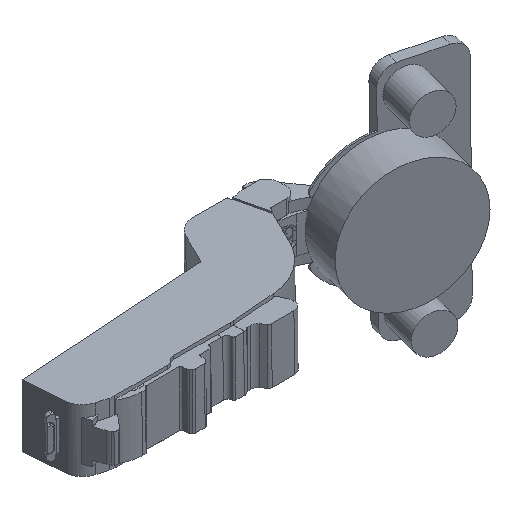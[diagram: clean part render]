
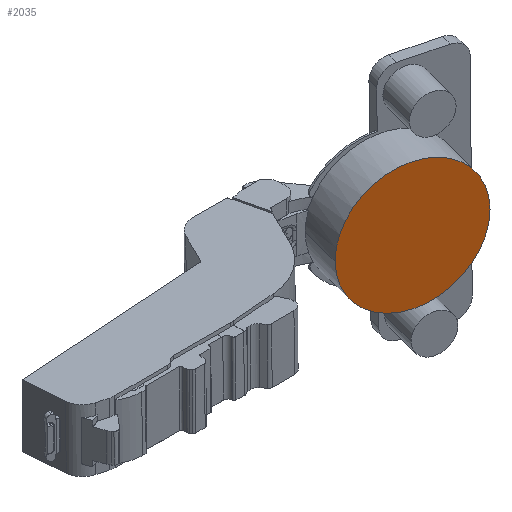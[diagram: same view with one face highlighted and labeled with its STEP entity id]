
A CAD part, isometric view. The second image highlights one B-rep face of the part: STEP entity #2035.
In plain terms, the highlighted planar face has unit normal (-0.254, -0.967, 0.009).
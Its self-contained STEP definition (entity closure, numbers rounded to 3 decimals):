
#276 = DIRECTION ( 'NONE',  ( 0.967, -0.254, 0. ) ) ;
#652 = CARTESIAN_POINT ( 'NONE',  ( 39.152, 10.463, -18.037 ) ) ;
#1291 = DIRECTION ( 'NONE',  ( 0.967, -0.254, 0. ) ) ;
#1794 = VERTEX_POINT ( 'NONE', #652 ) ;
#2035 = ADVANCED_FACE ( 'NONE', ( #4688 ), #10618, .T. ) ;
#2362 = CARTESIAN_POINT ( 'NONE',  ( 5.494, 19.305, -18.037 ) ) ;
#2639 = DIRECTION ( 'NONE',  ( -0.967, 0.254, 0. ) ) ;
#3245 = AXIS2_PLACEMENT_3D ( 'NONE', #8386, #10273, #1291 ) ;
#3698 = DIRECTION ( 'NONE',  ( -0.254, -0.967, 0.009 ) ) ;
#3745 = ORIENTED_EDGE ( 'NONE', *, *, #9611, .T. ) ;
#4336 = EDGE_LOOP ( 'NONE', ( #3745, #6949 ) ) ;
#4688 = FACE_OUTER_BOUND ( 'NONE', #4336, .T. ) ;
#6660 = DIRECTION ( 'NONE',  ( -0.254, -0.967, 0.009 ) ) ;
#6949 = ORIENTED_EDGE ( 'NONE', *, *, #12905, .T. ) ;
#7998 = AXIS2_PLACEMENT_3D ( 'NONE', #9399, #6660, #276 ) ;
#8386 = CARTESIAN_POINT ( 'NONE',  ( 22.323, 14.884, -18.037 ) ) ;
#9399 = CARTESIAN_POINT ( 'NONE',  ( 22.323, 14.884, -18.037 ) ) ;
#9611 = EDGE_CURVE ( 'NONE', #1794, #9941, #10359, .T. ) ;
#9941 = VERTEX_POINT ( 'NONE', #2362 ) ;
#10273 = DIRECTION ( 'NONE',  ( -0.254, -0.967, 0.009 ) ) ;
#10359 = CIRCLE ( 'NONE', #7998, 17.4 ) ;
#10436 = AXIS2_PLACEMENT_3D ( 'NONE', #12851, #3698, #2639 ) ;
#10618 = PLANE ( 'NONE',  #10436 ) ;
#12015 = CIRCLE ( 'NONE', #3245, 17.4 ) ;
#12851 = CARTESIAN_POINT ( 'NONE',  ( 22.323, 14.884, -18.037 ) ) ;
#12905 = EDGE_CURVE ( 'NONE', #9941, #1794, #12015, .T. ) ;
